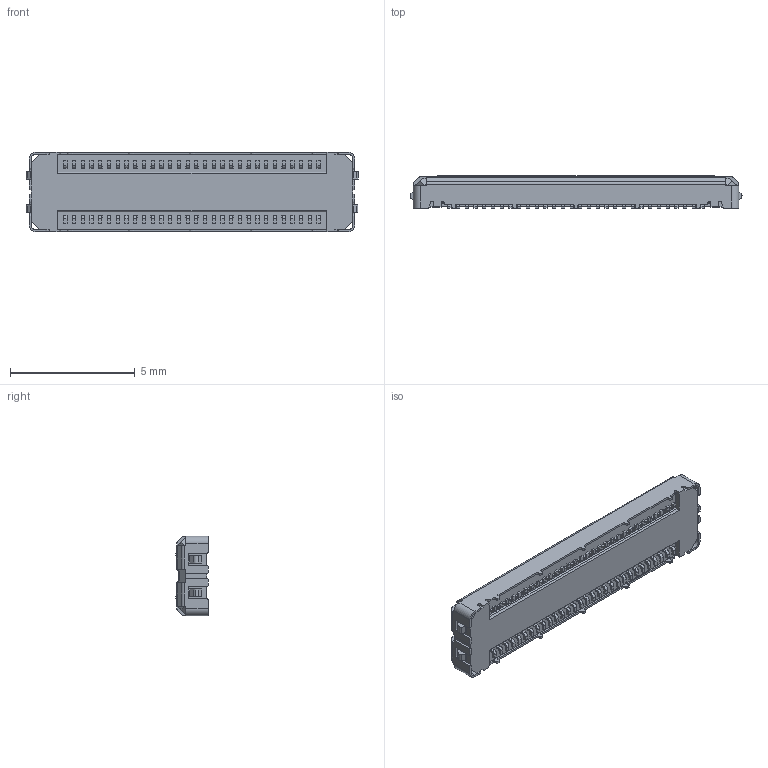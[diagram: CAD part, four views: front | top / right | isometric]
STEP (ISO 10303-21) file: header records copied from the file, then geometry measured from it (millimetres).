
FILE_DESCRIPTION (( 'STEP AP214' ), '1' );
FILE_NAME ('21004-060EC NOVASTACK 35-HDH RECEPTACLE ASSEMBLY STEP R4.STEP', '2022-07-07T10:48:46', ( '' ), ( '' ), 'SwSTEP 2.0', 'SolidWorks 2020', '' );
FILE_SCHEMA (( 'AUTOMOTIVE_DESIGN' ));
Length unit declared in the file: millimetre
Products named in the file (1): 21004-060EC NOVASTACK 35-HDH RECEPTACLE ASSEMBLY STEP R4
Bounding box: 13.31 x 1.3 x 3.2 mm (x, y, z)
Volume: 37.8 mm3; surface area: 176.4 mm2
Topology: 1 solids, 1 shells, 1289 faces, 3862 edges, 2628 vertices
Faces by surface type: plane 765, cylinder 516, sphere 4, bspline 4
Entity records: 44256 total; most frequent: CARTESIAN_POINT 9962, ORIENTED_EDGE 7716, DIRECTION 6496, EDGE_CURVE 3858, VERTEX_POINT 2628, LINE 2372, VECTOR 2372, AXIS2_PLACEMENT_3D 2062
